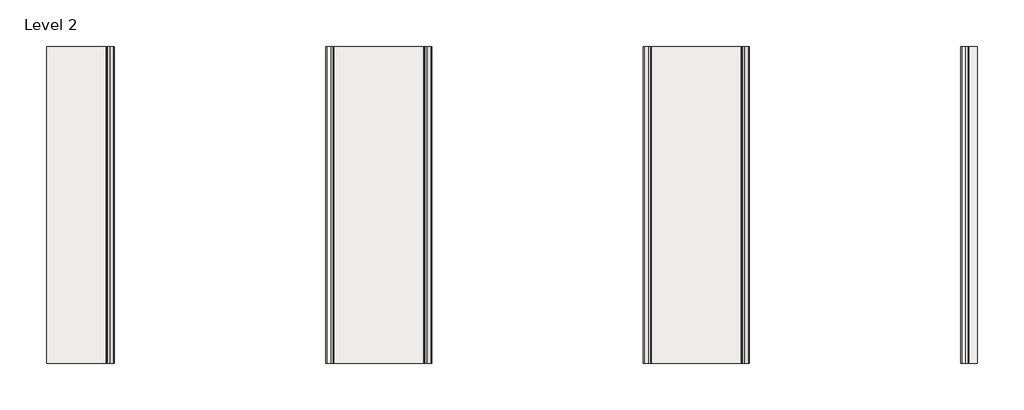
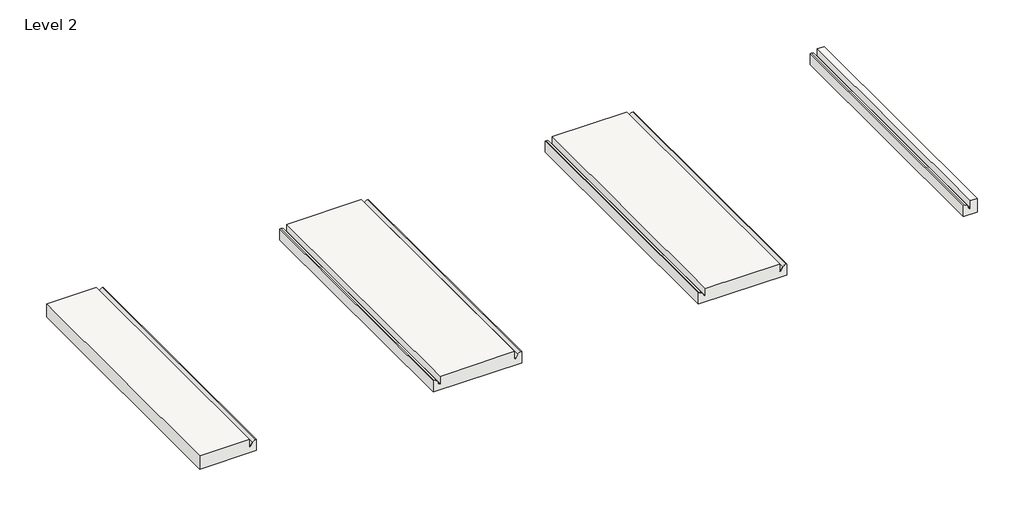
# One storey, incomplete: 1 roof.
"""IFC4 building model written with IfcOpenShell, lengths in millimetres."""

from ifc_helpers import new_model, si_unit, point, frame, frame_2d, origin, place, context, project, spatial, polyline, circle_curve, trimmed, segment, composite_curve, outline, extrude, element, save

model = new_model("IFC4")

# Units and contexts
model_context = context("Model", 3, world=origin())
ifc_project = project(units=[si_unit("LENGTHUNIT", "METRE", prefix="MILLI")], contexts=[model_context])

# Site, building, storey
site = spatial("IfcSite", under=ifc_project)
building = spatial("IfcBuilding", under=site)
storey = spatial("IfcBuildingStorey", under=building, Name="Level 2", Elevation=4000.0)

# Roof
placement = place(None, origin())
element("IfcRoof", 1, ObjectType="Teja Modelo", at=placement, inside=storey, context=model_context, shape_type="SweptSolid", body=[
    extrude(outline(composite_curve([segment(polyline([(4080.0, -1980.2817263), (4000.0, -1980.2817263), (4000.0, -1659.747141), (4065.9986608, -1659.747141), (4065.9986608, -1664.8320776)]), True, "CONTINUOUS"), segment(trimmed(circle_curve(frame_2d((4045.9986608, -1664.8320776)), 20.0), [point((4065.9986608, -1664.8320776))], [point((4055.8205707, -1682.2541925))], False, "CARTESIAN"), True, "CONTINUOUS"), segment(polyline([(4055.8205707, -1682.2541925), (4037.9256867, -1692.3426312)]), True, "CONTINUOUS"), segment(trimmed(circle_curve(frame_2d((4039.5638284, -1695.9918081)), 4.0), [point((4037.9256867, -1692.3426312))], [point((4035.5638284, -1695.9918081))], True, "CARTESIAN"), True, "CONTINUOUS"), segment(polyline([(4035.5638284, -1695.9918081), (4035.5638284, -1699.9486239), (4080.0, -1699.9486239), (4080.0, -1980.2817263)]), True, "CONTINUOUS")], self_intersect=False)), frame((0.0, -5505.0804713, 0.0), z_axis=(0.0, 1.0, 0.0), x_axis=(0.0, 0.0, 1.0)), (0.0, 0.0, 1.0), 1500.0),
    extrude(outline(composite_curve([segment(polyline([(4000.0, 2419.7182737), (4080.0, 2419.7182737), (4080.0, 2380.2513761), (4035.5638284, 2380.2513761), (4035.5638284, 2376.6892975)]), True, "CONTINUOUS"), segment(trimmed(circle_curve(frame_2d((4039.5638284, 2376.6892975)), 4.0), [point((4035.5638284, 2376.6892975))], [point((4037.9256867, 2373.0401206))], True, "CARTESIAN"), True, "CONTINUOUS"), segment(polyline([(4037.9256867, 2373.0401206), (4055.8205707, 2362.9516819)]), True, "CONTINUOUS"), segment(trimmed(circle_curve(frame_2d((4045.9986608, 2345.529567)), 20.0), [point((4055.8205707, 2362.9516819))], [point((4065.9986608, 2345.529567))], False, "CARTESIAN"), True, "CONTINUOUS"), segment(polyline([(4065.9986608, 2345.529567), (4065.9986608, 2340.4513761), (4000.0, 2340.4513761), (4000.0, 2419.7182737)]), True, "CONTINUOUS")], self_intersect=False)), frame((0.0, -5505.0804713, 0.0), z_axis=(0.0, 1.0, 0.0), x_axis=(0.0, 0.0, 1.0)), (0.0, 0.0, 1.0), 1500.0),
    extrude(outline(composite_curve([segment(polyline([(4080.0, -199.7486239), (4080.0, -620.1486239), (4035.5638284, -620.1486239), (4035.5638284, -623.7107025)]), True, "CONTINUOUS"), segment(trimmed(circle_curve(frame_2d((4039.5638284, -623.7107025)), 4.0), [point((4035.5638284, -623.7107025))], [point((4037.9256867, -627.3598794))], True, "CARTESIAN"), True, "CONTINUOUS"), segment(polyline([(4037.9256867, -627.3598794), (4055.8205707, -637.4483181)]), True, "CONTINUOUS"), segment(trimmed(circle_curve(frame_2d((4045.9986608, -654.870433)), 20.0), [point((4055.8205707, -637.4483181))], [point((4065.9986608, -654.870433))], False, "CARTESIAN"), True, "CONTINUOUS"), segment(polyline([(4065.9986608, -654.870433), (4065.9986608, -659.9486239), (4000.0, -659.9486239), (4000.0, -159.547141), (4065.9986608, -159.547141), (4065.9986608, -164.6320776)]), True, "CONTINUOUS"), segment(trimmed(circle_curve(frame_2d((4045.9986608, -164.6320776)), 20.0), [point((4065.9986608, -164.6320776))], [point((4055.8205707, -182.0541925))], False, "CARTESIAN"), True, "CONTINUOUS"), segment(polyline([(4055.8205707, -182.0541925), (4037.9256867, -192.1426312)]), True, "CONTINUOUS"), segment(trimmed(circle_curve(frame_2d((4039.5638284, -195.7918081)), 4.0), [point((4037.9256867, -192.1426312))], [point((4035.5638284, -195.7918081))], True, "CARTESIAN"), True, "CONTINUOUS"), segment(polyline([(4035.5638284, -195.7918081), (4035.5638284, -199.7486239), (4080.0, -199.7486239)]), True, "CONTINUOUS")], self_intersect=False)), frame((0.0, -5505.0804713, 0.0), z_axis=(0.0, 1.0, 0.0), x_axis=(0.0, 0.0, 1.0)), (0.0, 0.0, 1.0), 1500.0),
    extrude(outline(composite_curve([segment(polyline([(4080.0, 1300.4513761), (4080.0, 880.0513761), (4035.5638284, 880.0513761), (4035.5638284, 876.4892975)]), True, "CONTINUOUS"), segment(trimmed(circle_curve(frame_2d((4039.5638284, 876.4892975)), 4.0), [point((4035.5638284, 876.4892975))], [point((4037.9256867, 872.8401206))], True, "CARTESIAN"), True, "CONTINUOUS"), segment(polyline([(4037.9256867, 872.8401206), (4055.8205707, 862.7516819)]), True, "CONTINUOUS"), segment(trimmed(circle_curve(frame_2d((4045.9986608, 845.329567)), 20.0), [point((4055.8205707, 862.7516819))], [point((4065.9986608, 845.329567))], False, "CARTESIAN"), True, "CONTINUOUS"), segment(polyline([(4065.9986608, 845.329567), (4065.9986608, 840.2513761), (4000.0, 840.2513761), (4000.0, 1340.652859), (4065.9986608, 1340.652859), (4065.9986608, 1335.5679224)]), True, "CONTINUOUS"), segment(trimmed(circle_curve(frame_2d((4045.9986608, 1335.5679224)), 20.0), [point((4065.9986608, 1335.5679224))], [point((4055.8205707, 1318.1458075))], False, "CARTESIAN"), True, "CONTINUOUS"), segment(polyline([(4055.8205707, 1318.1458075), (4037.9256867, 1308.0573688)]), True, "CONTINUOUS"), segment(trimmed(circle_curve(frame_2d((4039.5638284, 1304.4081919)), 4.0), [point((4037.9256867, 1308.0573688))], [point((4035.5638284, 1304.4081919))], True, "CARTESIAN"), True, "CONTINUOUS"), segment(polyline([(4035.5638284, 1304.4081919), (4035.5638284, 1300.4513761), (4080.0, 1300.4513761)]), True, "CONTINUOUS")], self_intersect=False)), frame((0.0, -5505.0804713, 0.0), z_axis=(0.0, 1.0, 0.0), x_axis=(0.0, 0.0, 1.0)), (0.0, 0.0, 1.0), 1500.0),
])

save(model, "model.ifc")
